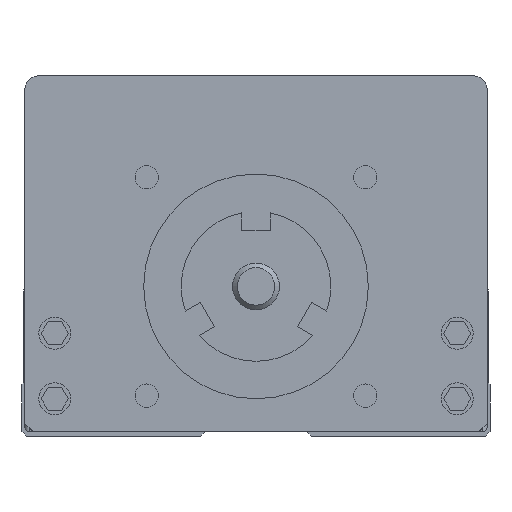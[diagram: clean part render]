
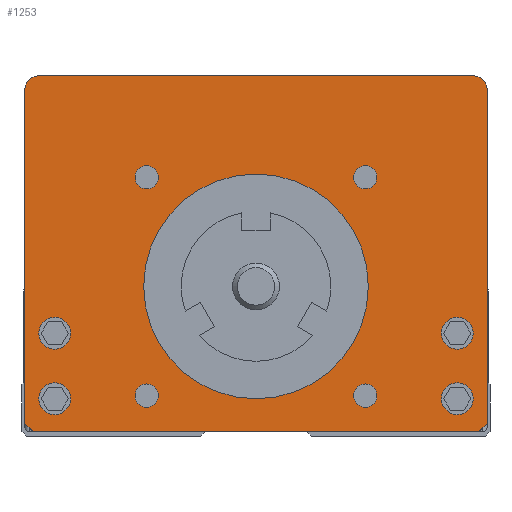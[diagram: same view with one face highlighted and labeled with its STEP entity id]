
A CAD part, front view. The second image highlights one B-rep face of the part: STEP entity #1253.
In plain terms, the highlighted planar face has unit normal (0, -1, 0).
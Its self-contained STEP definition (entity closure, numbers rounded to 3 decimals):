
#602=FACE_BOUND('',#2746,.T.);
#603=FACE_BOUND('',#2747,.T.);
#604=FACE_BOUND('',#2748,.T.);
#605=FACE_BOUND('',#2749,.T.);
#606=FACE_BOUND('',#2750,.T.);
#607=FACE_BOUND('',#2751,.T.);
#608=FACE_BOUND('',#2752,.T.);
#609=FACE_BOUND('',#2753,.T.);
#610=FACE_BOUND('',#2754,.T.);
#611=FACE_BOUND('',#2755,.T.);
#1253=ADVANCED_FACE('',(#602,#603,#604,#605,#606,#607,#608,#609,#610,#611),
#1758,.F.);
#1758=PLANE('',#11109);
#2746=EDGE_LOOP('',(#4564,#4565,#4566,#4567,#4568,#4569,#4570,#4571));
#2747=EDGE_LOOP('',(#4572));
#2748=EDGE_LOOP('',(#4573));
#2749=EDGE_LOOP('',(#4574));
#2750=EDGE_LOOP('',(#4575));
#2751=EDGE_LOOP('',(#4576));
#2752=EDGE_LOOP('',(#4577));
#2753=EDGE_LOOP('',(#4578));
#2754=EDGE_LOOP('',(#4579));
#2755=EDGE_LOOP('',(#4580));
#3337=CIRCLE('',#11030,1.25);
#3338=CIRCLE('',#11032,1.25);
#3339=CIRCLE('',#11034,1.25);
#3340=CIRCLE('',#11036,1.25);
#3342=CIRCLE('',#11039,1.7);
#3344=CIRCLE('',#11042,1.7);
#3351=CIRCLE('',#11064,12.);
#3352=CIRCLE('',#11066,1.7);
#3354=CIRCLE('',#11069,1.7);
#3373=CIRCLE('',#11107,1.5);
#3374=CIRCLE('',#11108,1.5);
#4564=ORIENTED_EDGE('',*,*,#8033,.F.);
#4565=ORIENTED_EDGE('',*,*,#8034,.F.);
#4566=ORIENTED_EDGE('',*,*,#7654,.F.);
#4567=ORIENTED_EDGE('',*,*,#8020,.F.);
#4568=ORIENTED_EDGE('',*,*,#7506,.F.);
#4569=ORIENTED_EDGE('',*,*,#8032,.F.);
#4570=ORIENTED_EDGE('',*,*,#7672,.F.);
#4571=ORIENTED_EDGE('',*,*,#8035,.F.);
#4572=ORIENTED_EDGE('',*,*,#7987,.F.);
#4573=ORIENTED_EDGE('',*,*,#7952,.F.);
#4574=ORIENTED_EDGE('',*,*,#7950,.F.);
#4575=ORIENTED_EDGE('',*,*,#7988,.F.);
#4576=ORIENTED_EDGE('',*,*,#7990,.F.);
#4577=ORIENTED_EDGE('',*,*,#7948,.F.);
#4578=ORIENTED_EDGE('',*,*,#7947,.F.);
#4579=ORIENTED_EDGE('',*,*,#7946,.F.);
#4580=ORIENTED_EDGE('',*,*,#7945,.F.);
#6535=VERTEX_POINT('',#14810);
#6536=VERTEX_POINT('',#14812);
#6651=VERTEX_POINT('',#15127);
#6652=VERTEX_POINT('',#15129);
#6666=VERTEX_POINT('',#15163);
#6667=VERTEX_POINT('',#15165);
#6855=VERTEX_POINT('',#16012);
#6856=VERTEX_POINT('',#16015);
#6857=VERTEX_POINT('',#16018);
#6858=VERTEX_POINT('',#16021);
#6860=VERTEX_POINT('',#16026);
#6862=VERTEX_POINT('',#16031);
#6881=VERTEX_POINT('',#16155);
#6882=VERTEX_POINT('',#16158);
#6884=VERTEX_POINT('',#16163);
#6905=VERTEX_POINT('',#16271);
#6906=VERTEX_POINT('',#16272);
#7506=EDGE_CURVE('',#6535,#6536,#8953,.T.);
#7654=EDGE_CURVE('',#6651,#6652,#9051,.T.);
#7672=EDGE_CURVE('',#6666,#6667,#9065,.T.);
#7945=EDGE_CURVE('',#6855,#6855,#3337,.T.);
#7946=EDGE_CURVE('',#6856,#6856,#3338,.T.);
#7947=EDGE_CURVE('',#6857,#6857,#3339,.T.);
#7948=EDGE_CURVE('',#6858,#6858,#3340,.T.);
#7950=EDGE_CURVE('',#6860,#6860,#3342,.T.);
#7952=EDGE_CURVE('',#6862,#6862,#3344,.T.);
#7987=EDGE_CURVE('',#6881,#6881,#3351,.T.);
#7988=EDGE_CURVE('',#6882,#6882,#3352,.T.);
#7990=EDGE_CURVE('',#6884,#6884,#3354,.T.);
#8020=EDGE_CURVE('',#6536,#6651,#9241,.T.);
#8032=EDGE_CURVE('',#6667,#6535,#9250,.T.);
#8033=EDGE_CURVE('',#6905,#6906,#9251,.T.);
#8034=EDGE_CURVE('',#6652,#6905,#3373,.T.);
#8035=EDGE_CURVE('',#6906,#6666,#3374,.T.);
#8953=LINE('',#14811,#9835);
#9051=LINE('',#15128,#9933);
#9065=LINE('',#15164,#9947);
#9241=LINE('',#16243,#10125);
#9250=LINE('',#16268,#10134);
#9251=LINE('',#16270,#10135);
#9835=VECTOR('',#11786,1.);
#9933=VECTOR('',#12034,1.);
#9947=VECTOR('',#12062,1.);
#10125=VECTOR('',#12864,1.);
#10134=VECTOR('',#12885,1.);
#10135=VECTOR('',#12888,1.);
#11030=AXIS2_PLACEMENT_3D('',#16011,#12690,#12691);
#11032=AXIS2_PLACEMENT_3D('',#16014,#12694,#12695);
#11034=AXIS2_PLACEMENT_3D('',#16017,#12698,#12699);
#11036=AXIS2_PLACEMENT_3D('',#16020,#12702,#12703);
#11039=AXIS2_PLACEMENT_3D('',#16025,#12708,#12709);
#11042=AXIS2_PLACEMENT_3D('',#16030,#12714,#12715);
#11064=AXIS2_PLACEMENT_3D('',#16154,#12783,#12784);
#11066=AXIS2_PLACEMENT_3D('',#16157,#12787,#12788);
#11069=AXIS2_PLACEMENT_3D('',#16162,#12793,#12794);
#11107=AXIS2_PLACEMENT_3D('',#16273,#12889,#12890);
#11108=AXIS2_PLACEMENT_3D('',#16274,#12891,#12892);
#11109=AXIS2_PLACEMENT_3D('',#16275,#12893,#12894);
#11786=DIRECTION('',(-1.,0.,0.));
#12034=DIRECTION('',(0.,0.,1.));
#12062=DIRECTION('',(0.,0.,-1.));
#12690=DIRECTION('',(0.,-1.,0.));
#12691=DIRECTION('',(1.,0.,0.));
#12694=DIRECTION('',(0.,-1.,0.));
#12695=DIRECTION('',(1.,0.,0.));
#12698=DIRECTION('',(0.,-1.,0.));
#12699=DIRECTION('',(1.,0.,0.));
#12702=DIRECTION('',(0.,-1.,0.));
#12703=DIRECTION('',(1.,0.,0.));
#12708=DIRECTION('',(0.,-1.,0.));
#12709=DIRECTION('',(1.,0.,0.));
#12714=DIRECTION('',(0.,-1.,0.));
#12715=DIRECTION('',(1.,0.,0.));
#12783=DIRECTION('',(0.,-1.,0.));
#12784=DIRECTION('',(1.,0.,0.));
#12787=DIRECTION('',(0.,-1.,0.));
#12788=DIRECTION('',(1.,0.,0.));
#12793=DIRECTION('',(0.,-1.,0.));
#12794=DIRECTION('',(1.,0.,0.));
#12864=DIRECTION('',(-0.707,0.,0.707));
#12885=DIRECTION('',(-0.707,0.,-0.707));
#12888=DIRECTION('',(1.,0.,0.));
#12889=DIRECTION('',(0.,1.,0.));
#12890=DIRECTION('',(-1.,0.,0.));
#12891=DIRECTION('',(0.,1.,0.));
#12892=DIRECTION('',(0.,0.,1.));
#12893=DIRECTION('',(0.,1.,0.));
#12894=DIRECTION('',(1.,0.,0.));
#14810=CARTESIAN_POINT('',(23.8,50.,0.));
#14811=CARTESIAN_POINT('',(23.8,50.,0.));
#14812=CARTESIAN_POINT('',(-23.8,50.,0.));
#15127=CARTESIAN_POINT('',(-24.7,50.,0.9));
#15128=CARTESIAN_POINT('',(-24.7,50.,0.9));
#15129=CARTESIAN_POINT('',(-24.7,50.,36.5));
#15163=CARTESIAN_POINT('',(24.7,50.,36.5));
#15164=CARTESIAN_POINT('',(24.7,50.,36.5));
#15165=CARTESIAN_POINT('',(24.7,50.,0.9));
#16011=CARTESIAN_POINT('',(-11.667,50.,27.167));
#16012=CARTESIAN_POINT('',(-10.417,50.,27.167));
#16014=CARTESIAN_POINT('',(-11.667,50.,3.833));
#16015=CARTESIAN_POINT('',(-10.417,50.,3.833));
#16017=CARTESIAN_POINT('',(11.667,50.,3.833));
#16018=CARTESIAN_POINT('',(12.917,50.,3.833));
#16020=CARTESIAN_POINT('',(11.667,50.,27.167));
#16021=CARTESIAN_POINT('',(12.917,50.,27.167));
#16025=CARTESIAN_POINT('',(21.5,50.,10.5));
#16026=CARTESIAN_POINT('',(23.2,50.,10.5));
#16030=CARTESIAN_POINT('',(21.5,50.,3.5));
#16031=CARTESIAN_POINT('',(23.2,50.,3.5));
#16154=CARTESIAN_POINT('',(0.,50.,15.5));
#16155=CARTESIAN_POINT('',(12.,50.,15.5));
#16157=CARTESIAN_POINT('',(-21.5,50.,10.5));
#16158=CARTESIAN_POINT('',(-19.8,50.,10.5));
#16162=CARTESIAN_POINT('',(-21.5,50.,3.5));
#16163=CARTESIAN_POINT('',(-19.8,50.,3.5));
#16243=CARTESIAN_POINT('',(-23.8,50.,0.));
#16268=CARTESIAN_POINT('',(24.7,50.,0.9));
#16270=CARTESIAN_POINT('',(-23.2,50.,38.));
#16271=CARTESIAN_POINT('',(-23.2,50.,38.));
#16272=CARTESIAN_POINT('',(23.2,50.,38.));
#16273=CARTESIAN_POINT('',(-23.2,50.,36.5));
#16274=CARTESIAN_POINT('',(23.2,50.,36.5));
#16275=CARTESIAN_POINT('',(0.,50.,19.));
